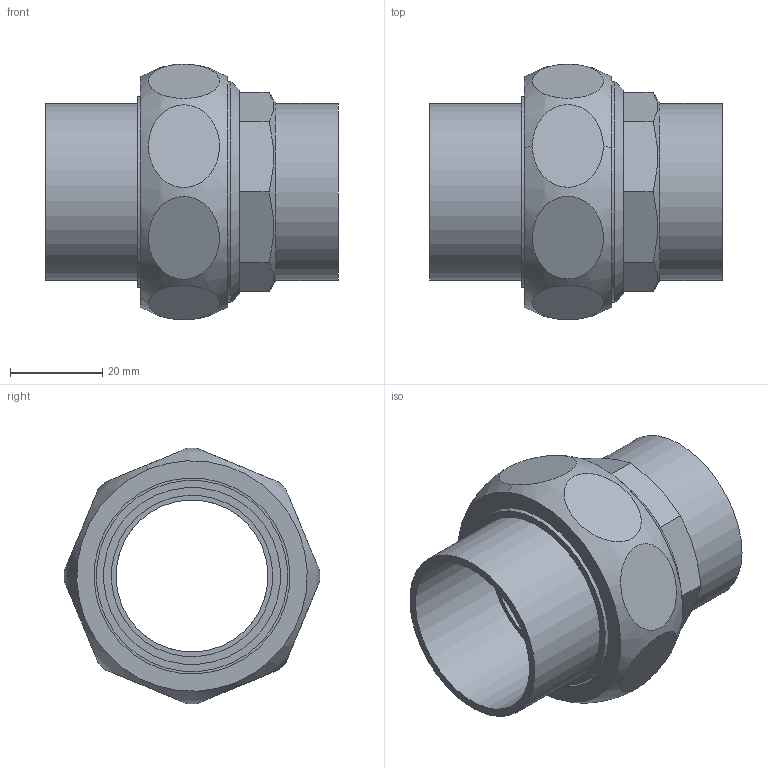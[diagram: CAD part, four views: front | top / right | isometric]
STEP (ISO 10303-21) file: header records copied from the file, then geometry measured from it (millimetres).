
FILE_DESCRIPTION(/* description */ (''),/* implementation_level */ '2;1');
FILE_NAME(/* name */ 'C:\Users\gomulka\Desktop\Nowy folder (2)\1434035.stp',/* time_stamp */ '2017-10-19T10:23:58+02:00',/* author */ ('gomulka'),/* organization */ (''),/* preprocessor_version */ 'ST-DEVELOPER v15.6',/* originating_system */ 'Autodesk Inventor 2015',/* authorisation */ '');
FILE_SCHEMA (('AUTOMOTIVE_DESIGN { 1 0 10303 214 3 1 1 }'));
Length unit declared in the file: millimetre
Products named in the file (4): 14380_35-112(1); 14381_35-112(2); 14374_112; Zespół2
Assembly tree (3 placements, depth 2):
  Zespół2
    14380_35-112(1)
    14381_35-112(2)
    14374_112
Bounding box: 63.51 x 55.49 x 55.49 mm (x, y, z)
Volume: 34638.3 mm3; surface area: 25164.3 mm2
Topology: 3 solids, 3 shells, 48 faces, 88 edges, 58 vertices
Faces by surface type: plane 28, cylinder 12, cone 5, bspline 2, torus 1
Full cylindrical faces by diameter (mm): 33 x2, 35 x2, 38.4 x2, 41.5 x1, 42 x1, 42.5 x1, 44.5 x1, 44.845 x1, 47.803 x1
Entity records: 1696 total; most frequent: CARTESIAN_POINT 717, DIRECTION 194, ORIENTED_EDGE 140, AXIS2_PLACEMENT_3D 89, EDGE_LOOP 84, EDGE_CURVE 70, VERTEX_POINT 58, FACE_OUTER_BOUND 48
